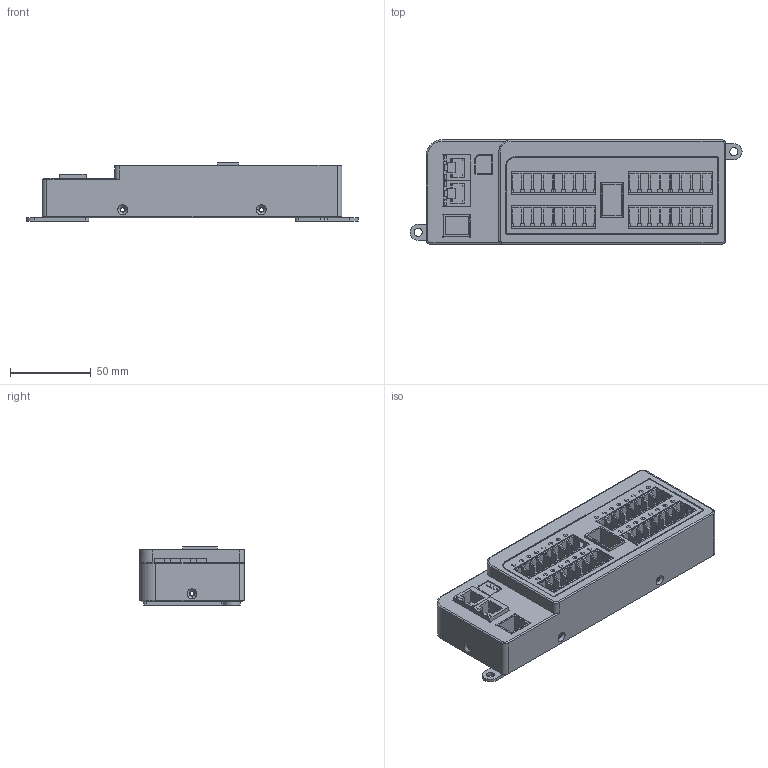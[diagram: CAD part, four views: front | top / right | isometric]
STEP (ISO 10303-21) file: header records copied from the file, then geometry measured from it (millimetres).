
FILE_DESCRIPTION((''),'2;1');
FILE_NAME('MRSHELL-320190214_ASM','2021-09-04T',('Administrator'),('yulong DESIGN'),'PRO/ENGINEER BY PARAMETRIC TECHNOLOGY CORPORATION, 2001280','PRO/ENGINEER BY PARAMETRIC TECHNOLOGY CORPORATION, 2001280','');
FILE_SCHEMA(('CONFIG_CONTROL_DESIGN'));
Length unit declared in the file: millimetre
Products named in the file (15): FRONT_COVER_MR5201_25; REAR_COVER_MR5201_8; 2547WVA-XP_7; HY951180A_4; DG271V-2PIN_3; DG27V-4PIN_6; FRONT_PCBA_MR5201_29; REAR_PCBA_COMMON_26; LIGHT_PIPE_11D7_PWR_2; LIGHT_PIPE_10_IO_1; MYLAR_POWER_INDICATOR_12; MYLAR_NUBER_INDICATOR_12; MR5201-EA_ASM_20_ASM; CLW-1; MRSHELL-320190214_ASM
Assembly tree (56 placements, depth 3):
  MRSHELL-320190214_ASM
    MR5201-EA_ASM_20_ASM
      FRONT_COVER_MR5201_25
      REAR_COVER_MR5201_8
      2547WVA-XP_7  x8
      HY951180A_4  x2
      DG271V-2PIN_3
      DG27V-4PIN_6
      FRONT_PCBA_MR5201_29
      REAR_PCBA_COMMON_26
      LIGHT_PIPE_11D7_PWR_2  x3
      LIGHT_PIPE_10_IO_1  x32
      MYLAR_POWER_INDICATOR_12
      MYLAR_NUBER_INDICATOR_12
    CLW-1  x2
Bounding box: 206 x 65 x 36 mm (x, y, z)
Volume: 141117.1 mm3; surface area: 157524.3 mm2
Topology: 55 solids, 55 shells, 3022 faces, 7335 edges, 4590 vertices
Faces by surface type: plane 2212, cylinder 554, cone 95, sphere 81, torus 49, bspline 27, extrusion 4
Entity records: 44365 total; most frequent: CARTESIAN_POINT 8836, DIRECTION 7559, ORIENTED_EDGE 7006, EDGE_CURVE 3503, AXIS2_PLACEMENT_3D 2637, VECTOR 2285, LINE 2281, VERTEX_POINT 2201
